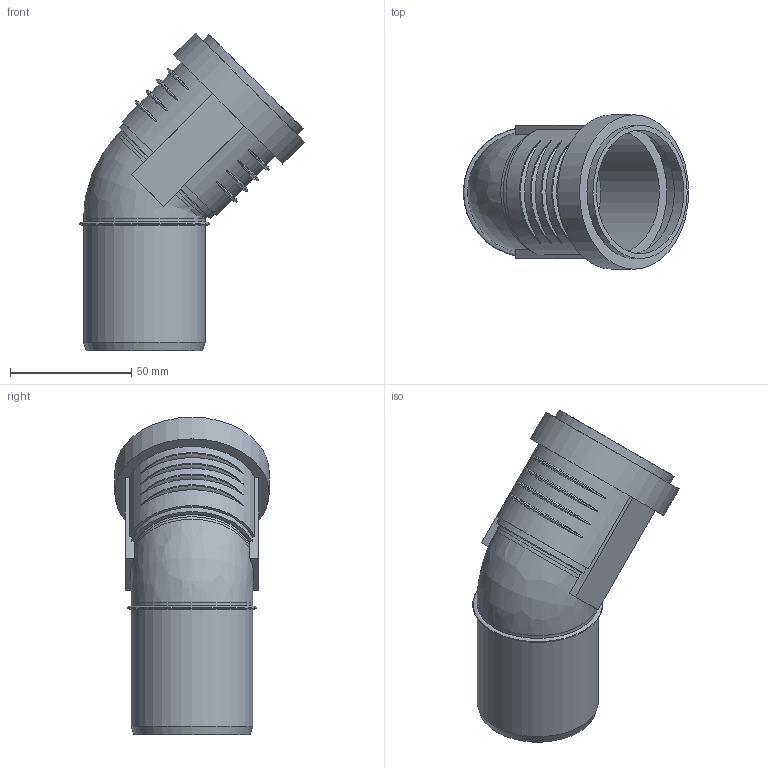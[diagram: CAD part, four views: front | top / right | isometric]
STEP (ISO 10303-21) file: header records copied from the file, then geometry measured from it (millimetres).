
FILE_DESCRIPTION(/* description */ (''),/* implementation_level */ '2;1');
FILE_NAME(/* name */ 'Z:\Geberit\Export\NewStep\390222.stp',/* time_stamp */ '2014-04-02T08:10:06+02:00',/* author */ ('ML'),/* organization */ (''),/* preprocessor_version */ 'ST-DEVELOPER v15.2',/* originating_system */ 'Autodesk Inventor 2014',/* authorisation */ '');
FILE_SCHEMA (('AUTOMOTIVE_DESIGN { 1 0 10303 214 3 1 1 }'));
Length unit declared in the file: millimetre
Products named in the file (3): 861323; 861401; 390222
Bounding box: 92.99 x 63.7 x 131.13 mm (x, y, z)
Volume: 48218.6 mm3; surface area: 49034.9 mm2
Topology: 2 solids, 2 shells, 68 faces, 162 edges, 109 vertices
Faces by surface type: torus 28, plane 19, cylinder 18, cone 2, bspline 1
Full cylindrical faces by diameter (mm): 46.15 x3, 50.15 x4, 51 x2, 55 x1, 59.7 x1, 63.7 x1
Entity records: 2630 total; most frequent: CARTESIAN_POINT 1054, DIRECTION 290, ORIENTED_EDGE 278, EDGE_CURVE 139, AXIS2_PLACEMENT_3D 127, VERTEX_POINT 106, EDGE_LOOP 103, STYLED_ITEM 70
